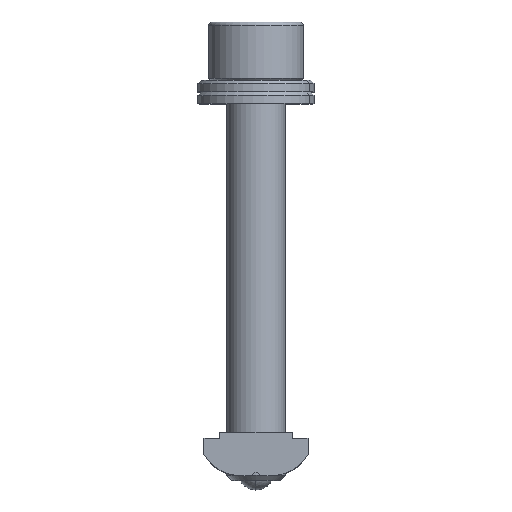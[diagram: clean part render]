
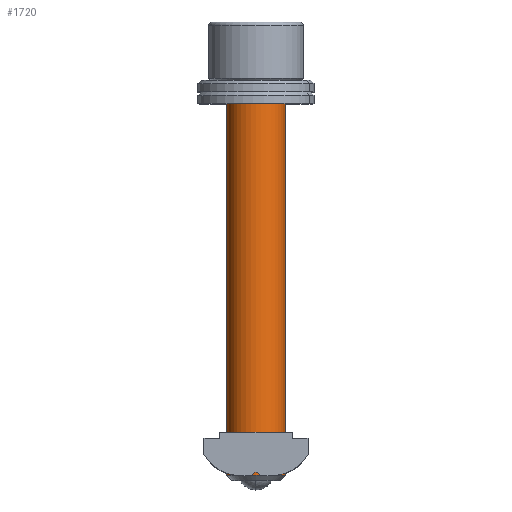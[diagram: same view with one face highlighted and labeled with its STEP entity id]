
A CAD part, top view. The second image highlights one B-rep face of the part: STEP entity #1720.
In plain terms, the highlighted cylindrical face has radius 4 mm (diameter 8 mm), a partial arc.
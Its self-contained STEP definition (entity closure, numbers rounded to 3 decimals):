
#48 = B_SPLINE_CURVE_WITH_KNOTS ( 'NONE', 3,
 ( #126, #1936, #2234, #429, #2556, #743, #2870, #1043, #3181, #1352, #3483, #1652, #3785, #1949, #138, #2250, #441, #2568, #759, #2878, #1057, #3192, #1363, #3494, #1668, #3801, #1959, #152, #2266, #456, #2581 ),
 .UNSPECIFIED., .F., .F.,
 ( 4, 3, 3, 3, 3, 3, 3, 3, 3, 3, 4 ),
 ( 0., 0., 0., 0., 0., 0., 0., 0., 0., 0., 0. ),
 .UNSPECIFIED. ) ;
#56 = ORIENTED_EDGE ( 'NONE', *, *, #595, .T. ) ;
#116 = VECTOR ( 'NONE', #3195, 1000. ) ;
#126 = CARTESIAN_POINT ( 'NONE',  ( -4.467, 18.165, 21.5 ) ) ;
#133 = AXIS2_PLACEMENT_3D ( 'NONE', #3307, #1487, #3623 ) ;
#138 = CARTESIAN_POINT ( 'NONE',  ( -4.422, 18.115, 21.5 ) ) ;
#152 = CARTESIAN_POINT ( 'NONE',  ( -4.368, 18.155, 21.5 ) ) ;
#164 = CARTESIAN_POINT ( 'NONE',  ( -4.367, 18.165, 21.5 ) ) ;
#232 = CARTESIAN_POINT ( 'NONE',  ( -8.417, 69.303, 17.5 ) ) ;
#270 = CARTESIAN_POINT ( 'NONE',  ( -4.371, 18.187, 21.5 ) ) ;
#284 = CARTESIAN_POINT ( 'NONE',  ( -4.433, 18.213, 21.5 ) ) ;
#297 = CARTESIAN_POINT ( 'NONE',  ( -4.467, 18.165, 21.5 ) ) ;
#363 = DIRECTION ( 'NONE',  ( 0., 1., 0. ) ) ;
#371 = ORIENTED_EDGE ( 'NONE', *, *, #3664, .T. ) ;
#383 = VERTEX_POINT ( 'NONE', #2395 ) ;
#399 = ORIENTED_EDGE ( 'NONE', *, *, #1862, .F. ) ;
#429 = CARTESIAN_POINT ( 'NONE',  ( -4.465, 18.154, 21.5 ) ) ;
#441 = CARTESIAN_POINT ( 'NONE',  ( -4.41, 18.116, 21.5 ) ) ;
#445 = CARTESIAN_POINT ( 'NONE',  ( -0.417, 14.303, 17.5 ) ) ;
#456 = CARTESIAN_POINT ( 'NONE',  ( -4.367, 18.162, 21.5 ) ) ;
#584 = CARTESIAN_POINT ( 'NONE',  ( -4.467, 18.165, 21.5 ) ) ;
#590 = CARTESIAN_POINT ( 'NONE',  ( -4.378, 18.197, 21.5 ) ) ;
#595 = EDGE_CURVE ( 'NONE', #383, #1113, #3340, .T. ) ;
#600 = CARTESIAN_POINT ( 'NONE',  ( -4.443, 18.208, 21.5 ) ) ;
#743 = CARTESIAN_POINT ( 'NONE',  ( -4.462, 18.143, 21.5 ) ) ;
#759 = CARTESIAN_POINT ( 'NONE',  ( -4.399, 18.118, 21.5 ) ) ;
#822 = ORIENTED_EDGE ( 'NONE', *, *, #956, .F. ) ;
#887 = CARTESIAN_POINT ( 'NONE',  ( -4.385, 18.205, 21.5 ) ) ;
#903 = CARTESIAN_POINT ( 'NONE',  ( -4.452, 18.201, 21.5 ) ) ;
#935 = LINE ( 'NONE', #445, #116 ) ;
#956 = EDGE_CURVE ( 'NONE', #2796, #3747, #48, .T. ) ;
#972 = LINE ( 'NONE', #1474, #3821 ) ;
#1043 = CARTESIAN_POINT ( 'NONE',  ( -4.456, 18.134, 21.5 ) ) ;
#1056 = CYLINDRICAL_SURFACE ( 'NONE', #2103, 4. ) ;
#1057 = CARTESIAN_POINT ( 'NONE',  ( -4.389, 18.123, 21.5 ) ) ;
#1113 = VERTEX_POINT ( 'NONE', #1246 ) ;
#1149 = FACE_OUTER_BOUND ( 'NONE', #2106, .T. ) ;
#1189 = CARTESIAN_POINT ( 'NONE',  ( -4.395, 18.211, 21.5 ) ) ;
#1204 = CARTESIAN_POINT ( 'NONE',  ( -4.459, 18.192, 21.5 ) ) ;
#1205 = DIRECTION ( 'NONE',  ( 0., 1., 0. ) ) ;
#1246 = CARTESIAN_POINT ( 'NONE',  ( -0.417, 15.003, 17.5 ) ) ;
#1352 = CARTESIAN_POINT ( 'NONE',  ( -4.447, 18.126, 21.5 ) ) ;
#1363 = CARTESIAN_POINT ( 'NONE',  ( -4.381, 18.13, 21.5 ) ) ;
#1375 = DIRECTION ( 'NONE',  ( 0., 1., 0. ) ) ;
#1474 = CARTESIAN_POINT ( 'NONE',  ( -8.417, 14.303, 17.5 ) ) ;
#1487 = DIRECTION ( 'NONE',  ( 0., 1., 0. ) ) ;
#1498 = CARTESIAN_POINT ( 'NONE',  ( -4.406, 18.214, 21.5 ) ) ;
#1515 = CARTESIAN_POINT ( 'NONE',  ( -4.464, 18.182, 21.5 ) ) ;
#1652 = CARTESIAN_POINT ( 'NONE',  ( -4.438, 18.12, 21.5 ) ) ;
#1668 = CARTESIAN_POINT ( 'NONE',  ( -4.374, 18.139, 21.5 ) ) ;
#1678 = DIRECTION ( 'NONE',  ( -1., 0., 0. ) ) ;
#1720 = ADVANCED_FACE ( 'NONE', ( #2039, #1149 ), #1056, .T. ) ;
#1727 = AXIS2_PLACEMENT_3D ( 'NONE', #2172, #363, #2485 ) ;
#1805 = CARTESIAN_POINT ( 'NONE',  ( -4.417, 18.216, 21.5 ) ) ;
#1820 = CARTESIAN_POINT ( 'NONE',  ( -4.466, 18.171, 21.5 ) ) ;
#1862 = EDGE_CURVE ( 'NONE', #383, #2076, #972, .T. ) ;
#1936 = CARTESIAN_POINT ( 'NONE',  ( -4.467, 18.162, 21.5 ) ) ;
#1949 = CARTESIAN_POINT ( 'NONE',  ( -4.427, 18.116, 21.5 ) ) ;
#1959 = CARTESIAN_POINT ( 'NONE',  ( -4.369, 18.15, 21.5 ) ) ;
#2039 = FACE_BOUND ( 'NONE', #3232, .T. ) ;
#2076 = VERTEX_POINT ( 'NONE', #232 ) ;
#2081 = CARTESIAN_POINT ( 'NONE',  ( -4.369, 18.182, 21.5 ) ) ;
#2093 = CARTESIAN_POINT ( 'NONE',  ( -4.428, 18.214, 21.5 ) ) ;
#2103 = AXIS2_PLACEMENT_3D ( 'NONE', #3190, #1375, #1678 ) ;
#2104 = CARTESIAN_POINT ( 'NONE',  ( -4.467, 18.167, 21.5 ) ) ;
#2106 = EDGE_LOOP ( 'NONE', ( #56, #371, #3690, #399 ) ) ;
#2129 = EDGE_CURVE ( 'NONE', #2076, #3840, #2220, .T. ) ;
#2132 = EDGE_CURVE ( 'NONE', #3747, #2796, #3799, .T. ) ;
#2172 = CARTESIAN_POINT ( 'NONE',  ( -4.417, 15.003, 17.5 ) ) ;
#2220 = CIRCLE ( 'NONE', #133, 4. ) ;
#2234 = CARTESIAN_POINT ( 'NONE',  ( -4.466, 18.158, 21.5 ) ) ;
#2250 = CARTESIAN_POINT ( 'NONE',  ( -4.416, 18.115, 21.5 ) ) ;
#2266 = CARTESIAN_POINT ( 'NONE',  ( -4.367, 18.158, 21.5 ) ) ;
#2388 = CARTESIAN_POINT ( 'NONE',  ( -4.374, 18.192, 21.5 ) ) ;
#2395 = CARTESIAN_POINT ( 'NONE',  ( -8.417, 15.003, 17.5 ) ) ;
#2407 = CARTESIAN_POINT ( 'NONE',  ( -4.438, 18.21, 21.5 ) ) ;
#2485 = DIRECTION ( 'NONE',  ( 1., 0., 0. ) ) ;
#2556 = CARTESIAN_POINT ( 'NONE',  ( -4.464, 18.149, 21.5 ) ) ;
#2568 = CARTESIAN_POINT ( 'NONE',  ( -4.405, 18.117, 21.5 ) ) ;
#2581 = CARTESIAN_POINT ( 'NONE',  ( -4.367, 18.165, 21.5 ) ) ;
#2706 = CARTESIAN_POINT ( 'NONE',  ( -4.381, 18.201, 21.5 ) ) ;
#2719 = CARTESIAN_POINT ( 'NONE',  ( -4.448, 18.205, 21.5 ) ) ;
#2796 = VERTEX_POINT ( 'NONE', #584 ) ;
#2844 = ORIENTED_EDGE ( 'NONE', *, *, #2132, .F. ) ;
#2870 = CARTESIAN_POINT ( 'NONE',  ( -4.459, 18.139, 21.5 ) ) ;
#2878 = CARTESIAN_POINT ( 'NONE',  ( -4.394, 18.12, 21.5 ) ) ;
#3008 = CARTESIAN_POINT ( 'NONE',  ( -4.367, 18.171, 21.5 ) ) ;
#3021 = CARTESIAN_POINT ( 'NONE',  ( -4.39, 18.208, 21.5 ) ) ;
#3030 = CARTESIAN_POINT ( 'NONE',  ( -4.456, 18.197, 21.5 ) ) ;
#3181 = CARTESIAN_POINT ( 'NONE',  ( -4.452, 18.13, 21.5 ) ) ;
#3190 = CARTESIAN_POINT ( 'NONE',  ( -4.417, 14.303, 17.5 ) ) ;
#3192 = CARTESIAN_POINT ( 'NONE',  ( -4.385, 18.127, 21.5 ) ) ;
#3195 = DIRECTION ( 'NONE',  ( 0., 1., 0. ) ) ;
#3232 = EDGE_LOOP ( 'NONE', ( #2844, #822 ) ) ;
#3307 = CARTESIAN_POINT ( 'NONE',  ( -4.417, 69.303, 17.5 ) ) ;
#3325 = CARTESIAN_POINT ( 'NONE',  ( -4.4, 18.213, 21.5 ) ) ;
#3339 = CARTESIAN_POINT ( 'NONE',  ( -4.462, 18.187, 21.5 ) ) ;
#3340 = CIRCLE ( 'NONE', #1727, 4. ) ;
#3483 = CARTESIAN_POINT ( 'NONE',  ( -4.443, 18.123, 21.5 ) ) ;
#3494 = CARTESIAN_POINT ( 'NONE',  ( -4.377, 18.135, 21.5 ) ) ;
#3607 = CARTESIAN_POINT ( 'NONE',  ( -4.367, 18.165, 21.5 ) ) ;
#3623 = DIRECTION ( 'NONE',  ( -1., 0., 0. ) ) ;
#3636 = CARTESIAN_POINT ( 'NONE',  ( -4.411, 18.215, 21.5 ) ) ;
#3646 = CARTESIAN_POINT ( 'NONE',  ( -4.466, 18.176, 21.5 ) ) ;
#3664 = EDGE_CURVE ( 'NONE', #1113, #3840, #935, .T. ) ;
#3690 = ORIENTED_EDGE ( 'NONE', *, *, #2129, .F. ) ;
#3747 = VERTEX_POINT ( 'NONE', #164 ) ;
#3785 = CARTESIAN_POINT ( 'NONE',  ( -4.433, 18.118, 21.5 ) ) ;
#3799 = B_SPLINE_CURVE_WITH_KNOTS ( 'NONE', 3,
 ( #3607, #3008, #3924, #2081, #270, #2388, #590, #2706, #887, #3021, #1189, #3325, #1498, #3636, #1805, #3939, #2093, #284, #2407, #600, #2719, #903, #3030, #1204, #3339, #1515, #3646, #1820, #3954, #2104, #297 ),
 .UNSPECIFIED., .F., .F.,
 ( 4, 3, 3, 3, 3, 3, 3, 3, 3, 3, 4 ),
 ( 0., 0., 0., 0., 0., 0., 0., 0., 0., 0., 0. ),
 .UNSPECIFIED. ) ;
#3801 = CARTESIAN_POINT ( 'NONE',  ( -4.371, 18.144, 21.5 ) ) ;
#3821 = VECTOR ( 'NONE', #1205, 1000. ) ;
#3840 = VERTEX_POINT ( 'NONE', #3875 ) ;
#3875 = CARTESIAN_POINT ( 'NONE',  ( -0.417, 69.303, 17.5 ) ) ;
#3924 = CARTESIAN_POINT ( 'NONE',  ( -4.368, 18.177, 21.5 ) ) ;
#3939 = CARTESIAN_POINT ( 'NONE',  ( -4.422, 18.215, 21.5 ) ) ;
#3954 = CARTESIAN_POINT ( 'NONE',  ( -4.466, 18.169, 21.5 ) ) ;
